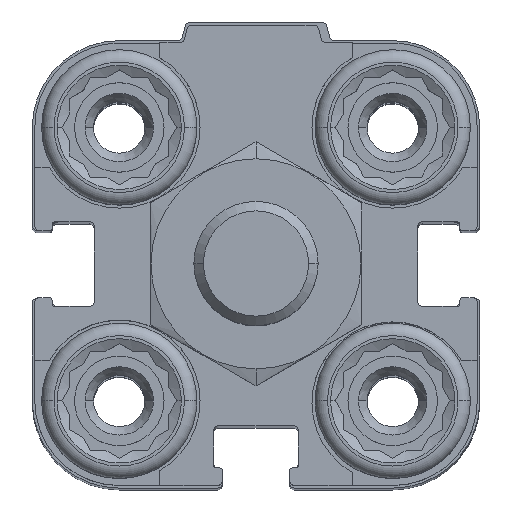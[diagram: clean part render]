
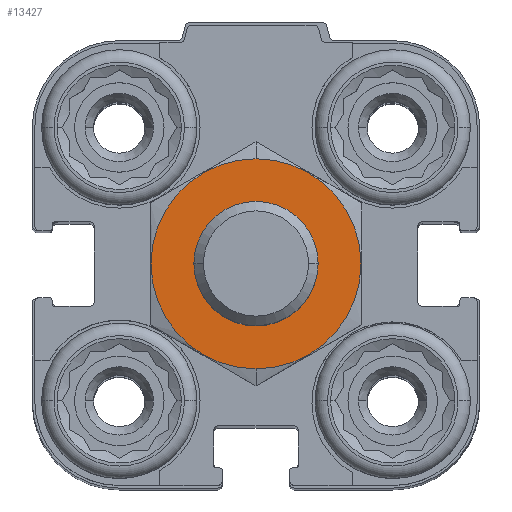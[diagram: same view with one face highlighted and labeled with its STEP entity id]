
A CAD part, top view. The second image highlights one B-rep face of the part: STEP entity #13427.
In plain terms, the highlighted planar face has unit normal (0, 0, 1).
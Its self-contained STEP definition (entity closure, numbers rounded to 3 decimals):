
#433 = VERTEX_POINT ( 'NONE', #4664 ) ;
#553 = AXIS2_PLACEMENT_3D ( 'NONE', #16932, #18794, #10948 ) ;
#1204 = EDGE_CURVE ( 'NONE', #2992, #18097, #7715, .T. ) ;
#1447 = CARTESIAN_POINT ( 'NONE',  ( 0., 5., 13.5 ) ) ;
#1564 = DIRECTION ( 'NONE',  ( 0., -1., 0. ) ) ;
#1582 = CARTESIAN_POINT ( 'NONE',  ( 0., -8.45, 13.5 ) ) ;
#1591 = FACE_BOUND ( 'NONE', #14163, .T. ) ;
#2434 = ORIENTED_EDGE ( 'NONE', *, *, #18138, .F. ) ;
#2911 = CARTESIAN_POINT ( 'NONE',  ( 0., 0., 13.5 ) ) ;
#2992 = VERTEX_POINT ( 'NONE', #1447 ) ;
#3226 = FACE_OUTER_BOUND ( 'NONE', #15465, .T. ) ;
#3430 = DIRECTION ( 'NONE',  ( 0., 0., -1. ) ) ;
#3759 = AXIS2_PLACEMENT_3D ( 'NONE', #18992, #3430, #17530 ) ;
#3956 = EDGE_CURVE ( 'NONE', #18097, #2992, #4306, .T. ) ;
#4306 = CIRCLE ( 'NONE', #8570, 5. ) ;
#4664 = CARTESIAN_POINT ( 'NONE',  ( 0., 8.45, 13.5 ) ) ;
#5790 = CIRCLE ( 'NONE', #14324, 8.45 ) ;
#6023 = DIRECTION ( 'NONE',  ( 0., 0., -1. ) ) ;
#6227 = DIRECTION ( 'NONE',  ( 0., -1., 0. ) ) ;
#6833 = VERTEX_POINT ( 'NONE', #1582 ) ;
#7715 = CIRCLE ( 'NONE', #3759, 5. ) ;
#8570 = AXIS2_PLACEMENT_3D ( 'NONE', #11933, #19669, #16781 ) ;
#9079 = DIRECTION ( 'NONE',  ( 0., 0., -1. ) ) ;
#9226 = CARTESIAN_POINT ( 'NONE',  ( 0., -5., 13.5 ) ) ;
#9438 = CIRCLE ( 'NONE', #553, 8.45 ) ;
#9983 = AXIS2_PLACEMENT_3D ( 'NONE', #12674, #6023, #6227 ) ;
#10948 = DIRECTION ( 'NONE',  ( 0., -1., 0. ) ) ;
#11933 = CARTESIAN_POINT ( 'NONE',  ( 0., 0., 13.5 ) ) ;
#12543 = EDGE_CURVE ( 'NONE', #433, #6833, #5790, .T. ) ;
#12577 = ORIENTED_EDGE ( 'NONE', *, *, #3956, .T. ) ;
#12674 = CARTESIAN_POINT ( 'NONE',  ( 0., 0., 13.5 ) ) ;
#13427 = ADVANCED_FACE ( 'NONE', ( #3226, #1591 ), #20229, .F. ) ;
#14163 = EDGE_LOOP ( 'NONE', ( #14487, #12577 ) ) ;
#14324 = AXIS2_PLACEMENT_3D ( 'NONE', #2911, #9079, #1564 ) ;
#14487 = ORIENTED_EDGE ( 'NONE', *, *, #1204, .T. ) ;
#15465 = EDGE_LOOP ( 'NONE', ( #2434, #17780 ) ) ;
#16781 = DIRECTION ( 'NONE',  ( 0., -1., 0. ) ) ;
#16932 = CARTESIAN_POINT ( 'NONE',  ( 0., 0., 13.5 ) ) ;
#17530 = DIRECTION ( 'NONE',  ( 0., -1., 0. ) ) ;
#17780 = ORIENTED_EDGE ( 'NONE', *, *, #12543, .F. ) ;
#18097 = VERTEX_POINT ( 'NONE', #9226 ) ;
#18138 = EDGE_CURVE ( 'NONE', #6833, #433, #9438, .T. ) ;
#18794 = DIRECTION ( 'NONE',  ( 0., 0., -1. ) ) ;
#18992 = CARTESIAN_POINT ( 'NONE',  ( 0., 0., 13.5 ) ) ;
#19669 = DIRECTION ( 'NONE',  ( 0., 0., -1. ) ) ;
#20229 = PLANE ( 'NONE',  #9983 ) ;
